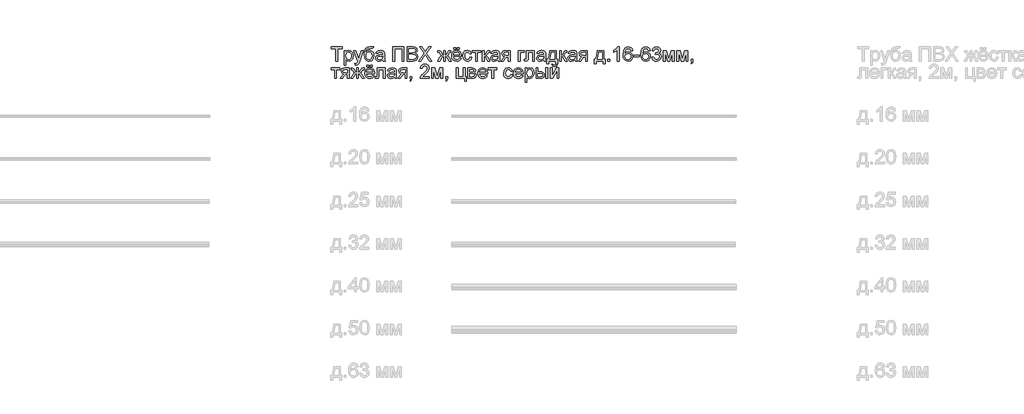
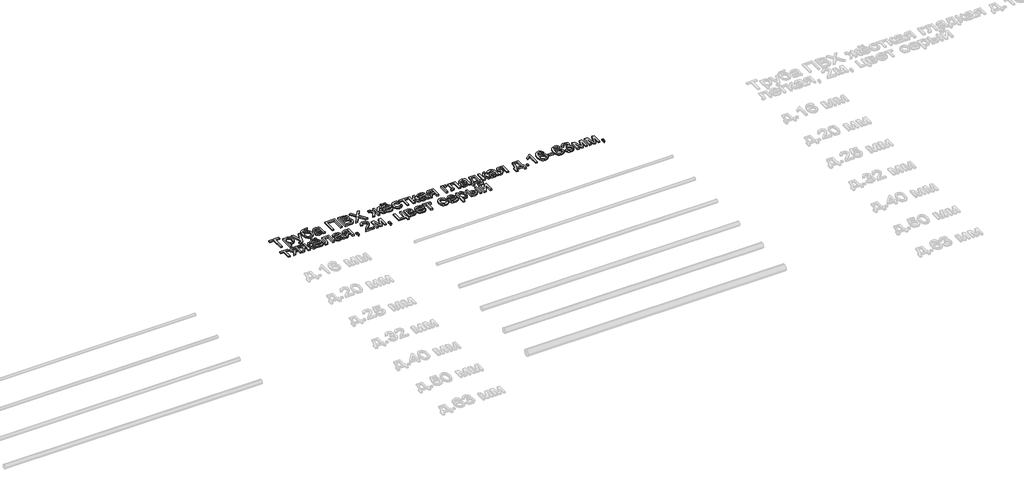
# One storey, part 96 of 98: 1 proxy.
"""IFC4 building model written with IfcOpenShell, lengths in millimetres."""

from ifc_helpers import new_model, si_unit, origin, origin_with_axes, place, context, project, spatial, polyline, outline, extrude, element, save

model = new_model("IFC4")

# Units and contexts
model_context = context("Model", 3, world=origin())
ifc_project = project(units=[si_unit("LENGTHUNIT", "METRE", prefix="MILLI")], contexts=[model_context])

# Site, building, storey
site = spatial("IfcSite", under=ifc_project)
building = spatial("IfcBuilding", under=site)
storey = spatial("IfcBuildingStorey", under=building, Name="Этаж 01", Elevation=0.0)

# Proxy
placement = place(None, origin())
element("IfcBuildingElementProxy", 1, Name="100", ObjectType="100", at=placement, inside=storey, context=model_context, shape_type="SweptSolid", body=[
    extrude(outline(polyline([(11088.710485, -3215.5625308), (11088.710485, -3127.6632594), (11055.7482582, -3127.6632594), (11055.7482582, -3115.1062206), (11134.2297505, -3115.1062206), (11134.2297505, -3127.6632594), (11101.2675238, -3127.6632594), (11101.2675238, -3215.5625308), (11088.710485, -3215.5625308)])), origin_with_axes(), (0.0, 0.0, 1.0), 10.0),
    extrude(outline(polyline([(11146.7867893, -3243.815868), (11146.7867893, -3141.789928), (11159.3438281, -3141.789928), (11159.3438281, -3154.1017121), (11168.0258432, -3143.6906516), (11179.7490161, -3140.2202982), (11195.6660437, -3145.0763405), (11206.0648415, -3158.7615507), (11209.5719831, -3178.1121437), (11205.6111203, -3198.456018), (11194.1086766, -3212.3129065), (11178.2284372, -3217.1321606), (11167.3023419, -3213.9070618), (11159.3438281, -3205.7523442), (11159.3438281, -3243.815868), (11146.7867893, -3243.815868)]), holes=[polyline([(11159.3438281, -3179.2648406), (11160.7019258, -3190.5220296), (11164.7762189, -3198.3947043), (11170.7880238, -3203.0300175), (11177.958657, -3204.5751218), (11185.2457862, -3202.9748352), (11191.4108753, -3198.1739751), (11195.6139271, -3190.0131262), (11197.0149444, -3178.3328729), (11195.6476496, -3167.1369975), (11191.5457654, -3159.1539582), (11185.5431575, -3154.3714922), (11178.4736918, -3152.7773369), (11171.376635, -3154.4726598), (11165.1441009, -3159.5586284), (11160.7938963, -3167.8758271), (11159.3438281, -3179.2648406)])]), origin_with_axes(), (0.0, 0.0, 1.0), 10.0),
    extrude(outline(polyline([(11223.6986518, -3243.815868), (11222.1290219, -3231.7248131), (11228.5056432, -3232.8284591), (11234.4653315, -3231.4427702), (11238.119626, -3227.5800093), (11241.5531913, -3218.3339085), (11242.5342099, -3215.2927506), (11215.8505025, -3141.789928), (11229.0942544, -3141.789928), (11243.2454484, -3182.7474568), (11248.1750672, -3199.1304683), (11253.1046859, -3184.6604432), (11267.6482874, -3141.789928), (11280.7939374, -3141.789928), (11255.1157741, -3217.3283643), (11248.4448473, -3233.7113759), (11241.1607838, -3242.5650692), (11231.3751227, -3245.3854978), (11223.6986518, -3243.815868)])), origin_with_axes(), (0.0, 0.0, 1.0), 10.0),
    extrude(outline(polyline([(11342.9905201, -3113.5365908), (11353.977929, -3113.5365908), (11350.7405674, -3123.3345146), (11344.3394207, -3126.8784445), (11328.9619533, -3127.6632594), (11308.250197, -3130.5572644), (11300.3039459, -3139.8278907), (11297.6184073, -3156.2354277), (11308.4954516, -3144.2179492), (11322.5117557, -3140.2202982), (11335.5776979, -3142.7617496), (11346.1788307, -3150.386104), (11353.2053768, -3162.3453345), (11355.5475588, -3177.8914145), (11350.899983, -3199.4983503), (11339.8757858, -3212.5336357), (11322.5117557, -3217.1321606), (11311.1779245, -3215.6514356), (11302.6829161, -3211.2092605), (11291.8303973, -3196.0525223), (11288.0534754, -3163.8873732), (11290.4355114, -3139.7941682), (11297.5816191, -3125.1003482), (11309.6696083, -3117.6047525), (11326.8772887, -3115.1062206), (11340.8568045, -3114.8241778), (11342.9905201, -3113.5365908)]), holes=[polyline([(11342.9905201, -3177.499007), (11341.6293567, -3167.6183097), (11337.5458665, -3159.7057812), (11330.9853043, -3154.509448), (11322.1929246, -3152.7773369), (11313.0265315, -3154.6075499), (11306.226846, -3160.0981886), (11302.0145972, -3168.6483793), (11300.6105142, -3179.657248), (11302.16175, -3190.3288916), (11306.8154572, -3198.1617124), (11313.7439014, -3202.9717695), (11322.1193482, -3204.5751218), (11330.5377145, -3202.7203835), (11337.20251, -3197.1561683), (11341.5435175, -3188.5324012), (11342.9905201, -3177.499007)])]), origin_with_axes(), (0.0, 0.0, 1.0), 10.0),
    extrude(outline(polyline([(11418.3327527, -3206.1447517), (11406.1558586, -3214.6550885), (11392.7036403, -3217.1321606), (11382.2098064, -3215.6422385), (11374.4689561, -3211.1724723), (11369.6956872, -3204.3850495), (11368.1045976, -3195.9421577), (11370.5080933, -3186.0093438), (11376.8234009, -3178.7988567), (11385.6157806, -3174.6785784), (11396.4805622, -3172.7901175), (11418.2591763, -3168.4736354), (11418.3327527, -3165.6777322), (11414.8746619, -3156.4071059), (11400.993248, -3152.7773369), (11388.2890564, -3155.1930954), (11382.2312662, -3163.7647458), (11369.6742274, -3162.195116), (11375.1066182, -3149.9323828), (11386.0449762, -3142.7464212), (11402.6119287, -3140.2202982), (11417.8299806, -3142.4521156), (11426.4261566, -3148.0561847), (11430.2766548, -3156.5787842), (11430.8897914, -3167.5661931), (11430.8897914, -3183.1889152), (11431.5274536, -3205.0043175), (11434.0290511, -3215.5625308), (11421.4720124, -3215.5625308), (11418.3327527, -3206.1447517)]), holes=[polyline([(11418.3327527, -3181.0306742), (11398.0747175, -3184.8811724), (11387.2712495, -3186.9167861), (11382.378419, -3190.227724), (11380.6616364, -3195.0592409), (11384.40177, -3201.8527951), (11395.3769162, -3204.5751218), (11408.0811077, -3201.5707522), (11416.2726135, -3194.2989514), (11418.2591763, -3184.5868668), (11418.3327527, -3181.0306742)])]), origin_with_axes(), (0.0, 0.0, 1.0), 10.0),
    extrude(outline(polyline([(11488.9660957, -3115.1062206), (11567.447588, -3115.1062206), (11567.447588, -3215.5625308), (11554.8905493, -3215.5625308), (11554.8905493, -3127.6632594), (11501.5231345, -3127.6632594), (11501.5231345, -3215.5625308), (11488.9660957, -3215.5625308), (11488.9660957, -3115.1062206)])), origin_with_axes(), (0.0, 0.0, 1.0), 10.0),
    extrude(outline(polyline([(11589.4224059, -3215.5625308), (11589.4224059, -3115.1062206), (11627.7557098, -3115.1062206), (11646.5299543, -3118.0615393), (11657.6154651, -3127.1482246), (11661.6253788, -3139.999569), (11658.2531272, -3151.7350046), (11648.0627959, -3160.6254862), (11660.4358937, -3169.9942143), (11664.7646385, -3185.6169364), (11661.8093198, -3199.1182056), (11654.4884681, -3208.7321884), (11643.5623728, -3213.8334854), (11627.4614042, -3215.5625308), (11589.4224059, -3215.5625308)]), holes=[polyline([(11601.9794447, -3155.9165966), (11624.9107557, -3155.9165966), (11638.3016603, -3154.8374761), (11646.358276, -3150.1899002), (11649.06834, -3142.0106572), (11646.542217, -3133.8191514), (11639.3072044, -3128.9753718), (11623.1694476, -3127.6632594), (11601.9794447, -3127.6632594), (11601.9794447, -3155.9165966)]), polyline([(11601.9794447, -3203.005492), (11627.7311843, -3203.005492), (11637.0508615, -3202.5149827), (11644.935799, -3199.7803932), (11650.1597233, -3194.2008496), (11652.2075997, -3185.7395637), (11649.804104, -3175.9784281), (11642.0172685, -3170.1536298), (11626.504911, -3168.4736354), (11601.9794447, -3168.4736354), (11601.9794447, -3203.005492)])]), origin_with_axes(), (0.0, 0.0, 1.0), 10.0),
    extrude(outline(polyline([(11671.0431579, -3215.5625308), (11709.7688692, -3160.8216899), (11677.3216773, -3115.1062206), (11692.3803136, -3115.1062206), (11710.651786, -3140.8334348), (11716.8076781, -3150.8643505), (11724.0181652, -3140.6617566), (11742.0934339, -3115.1062206), (11757.3727994, -3115.1062206), (11724.9256074, -3160.9688427), (11763.6513188, -3215.5625308), (11748.5926825, -3215.5625308), (11722.7918919, -3179.1667387), (11717.4208147, -3171.6128951), (11711.5101774, -3179.9025027), (11686.3225234, -3215.5625308), (11671.0431579, -3215.5625308)])), origin_with_axes(), (0.0, 0.0, 1.0), 10.0),
    extrude(outline(polyline([(11857.8291096, -3141.789928), (11857.8291096, -3173.1825249), (11865.1499613, -3170.5950882), (11872.0784055, -3157.1673954), (11880.3434877, -3144.2915256), (11892.0911861, -3141.789928), (11897.0698557, -3141.789928), (11897.0698557, -3154.4205432), (11893.611765, -3154.3469668), (11887.1370419, -3155.6468165), (11882.6488815, -3163.7892713), (11877.4372199, -3172.7165411), (11869.9937409, -3177.2537523), (11878.2036407, -3182.1404515), (11886.2050741, -3192.435016), (11900.2091154, -3215.5625308), (11885.8126667, -3215.5625308), (11872.0293546, -3192.7538471), (11865.0028085, -3183.2747543), (11857.8291096, -3181.0306742), (11857.8291096, -3215.5625308), (11845.2720708, -3215.5625308), (11845.2720708, -3181.0306742), (11838.1228974, -3183.2257034), (11831.0473003, -3192.7047961), (11817.2639882, -3215.5625308), (11802.892065, -3215.5625308), (11816.8470553, -3192.435016), (11824.9098024, -3182.1404515), (11833.1564904, -3177.2537523), (11825.2592903, -3172.2505572), (11818.4902616, -3159.3746874), (11815.1793236, -3155.1317817), (11809.7591955, -3154.2733904), (11806.0313247, -3154.3469668), (11806.0313247, -3141.789928), (11807.9197856, -3141.789928), (11818.93172, -3142.5747429), (11824.6461536, -3145.9102063), (11831.0473003, -3157.1673954), (11837.9021682, -3170.5092491), (11845.2720708, -3173.1825249), (11845.2720708, -3141.789928), (11857.8291096, -3141.789928)])), origin_with_axes(), (0.0, 0.0, 1.0), 10.0),
    extrude(outline(polyline([(11942.5891213, -3133.9417788), (11942.5891213, -3121.38474), (11955.14616, -3121.38474), (11955.14616, -3133.9417788), (11942.5891213, -3133.9417788)])), origin_with_axes(), (0.0, 0.0, 1.0), 10.0),
    extrude(outline(polyline([(11917.4750437, -3133.9417788), (11917.4750437, -3121.38474), (11930.0320825, -3121.38474), (11930.0320825, -3133.9417788), (11917.4750437, -3133.9417788)])), origin_with_axes(), (0.0, 0.0, 1.0), 10.0),
    extrude(outline(polyline([(11958.1382669, -3193.5877129), (11970.450051, -3195.1573428), (11966.0140073, -3204.4341004), (11958.9353446, -3211.368676), (11949.3734784, -3215.6912895), (11937.4878243, -3217.1321606), (11922.7541504, -3214.6458915), (11911.4172535, -3207.187084), (11904.1883723, -3195.2401162), (11901.7787453, -3179.289366), (11904.2128978, -3162.8021213), (11911.5153554, -3150.4719431), (11922.6989681, -3142.7832094), (11936.7765857, -3140.2202982), (11950.4158107, -3142.777078), (11961.3143148, -3150.4474176), (11968.4604226, -3162.7530704), (11970.8424585, -3179.2157896), (11970.7688821, -3182.600304), (11914.335784, -3182.600304), (11916.5093535, -3191.999689), (11921.5585339, -3198.9097391), (11928.8456631, -3203.1587762), (11937.7330789, -3204.5751218), (11950.044863, -3201.9508969), (11958.1382669, -3193.5877129)]), holes=[polyline([(11914.335784, -3170.0432652), (11958.2854197, -3170.0432652), (11953.2576991, -3158.6634488), (11945.9368474, -3154.2488649), (11936.7275348, -3152.7773369), (11921.2642283, -3157.4739637), (11916.3989889, -3162.9646025), (11914.335784, -3170.0432652)])]), origin_with_axes(), (0.0, 0.0, 1.0), 10.0),
    extrude(outline(polyline([(12030.4883926, -3188.8788234), (12043.0454314, -3190.4484532), (12039.5444211, -3201.6167375), (12032.9654647, -3210.0565636), (12023.9278304, -3215.3632614), (12013.0507861, -3217.1321606), (11999.693604, -3214.6642856), (11989.248821, -3207.2606604), (11982.5073834, -3195.2462476), (11980.2602376, -3178.9460095), (11984.0984731, -3158.0871004), (11995.7971205, -3144.683933), (12012.8791078, -3140.2202982), (12023.4894377, -3141.7531398), (12031.9721834, -3146.3516647), (12038.0575647, -3153.7706183), (12041.4758016, -3163.7647458), (12028.9187628, -3165.3343757), (12023.0939645, -3155.9288593), (12012.9772097, -3152.7773369), (12004.862346, -3154.3285727), (11998.4213454, -3158.9822799), (11994.2182936, -3166.9898447), (11992.8172763, -3178.602653), (11994.1876368, -3190.3718111), (11998.2987181, -3198.4069671), (12004.6232227, -3203.0330831), (12012.6338531, -3204.5751218), (12024.4673907, -3200.7246236), (12030.4883926, -3188.8788234)])), origin_with_axes(), (0.0, 0.0, 1.0), 10.0),
    extrude(outline(polyline([(12047.754321, -3141.789928), (12107.4002551, -3141.789928), (12107.4002551, -3154.3469668), (12083.8558074, -3154.3469668), (12083.8558074, -3215.5625308), (12071.2987686, -3215.5625308), (12071.2987686, -3154.3469668), (12047.754321, -3154.3469668), (12047.754321, -3141.789928)])), origin_with_axes(), (0.0, 0.0, 1.0), 10.0),
    extrude(outline(polyline([(12118.387664, -3141.789928), (12130.9447028, -3141.789928), (12130.9447028, -3173.1825249), (12139.3569377, -3170.926182), (12146.2485938, -3157.7805321), (12151.9752902, -3146.4375039), (12157.0275363, -3142.7464212), (12166.2123234, -3141.789928), (12168.6158191, -3141.789928), (12168.6158191, -3154.4205432), (12165.2313047, -3154.3469668), (12159.0999382, -3155.671342), (12154.7834561, -3163.9364241), (12149.7189473, -3172.8759566), (12142.6188248, -3177.2537523), (12150.5405504, -3182.1404515), (12158.3151232, -3192.435016), (12171.7550788, -3215.5625308), (12157.4812574, -3215.5625308), (12144.311082, -3192.9255253), (12137.689206, -3183.3483307), (12130.9447028, -3181.0306742), (12130.9447028, -3215.5625308), (12118.387664, -3215.5625308), (12118.387664, -3141.789928)])), origin_with_axes(), (0.0, 0.0, 1.0), 10.0),
    extrude(outline(polyline([(12226.6921234, -3206.1447517), (12214.5152294, -3214.6550885), (12201.0630111, -3217.1321606), (12190.5691772, -3215.6422385), (12182.8283268, -3211.1724723), (12178.055058, -3204.3850495), (12176.4639683, -3195.9421577), (12178.867464, -3186.0093438), (12185.1827716, -3178.7988567), (12193.9751513, -3174.6785784), (12204.8399329, -3172.7901175), (12226.618547, -3168.4736354), (12226.6921234, -3165.6777322), (12223.2340326, -3156.4071059), (12209.3526187, -3152.7773369), (12196.6484271, -3155.1930954), (12190.5906369, -3163.7647458), (12178.0335982, -3162.195116), (12183.465989, -3149.9323828), (12194.404347, -3142.7464212), (12210.9712995, -3140.2202982), (12226.1893513, -3142.4521156), (12234.7855273, -3148.0561847), (12238.6360255, -3156.5787842), (12239.2491622, -3167.5661931), (12239.2491622, -3183.1889152), (12239.8868243, -3205.0043175), (12242.3884219, -3215.5625308), (12229.8313831, -3215.5625308), (12226.6921234, -3206.1447517)]), holes=[polyline([(12226.6921234, -3181.0306742), (12206.4340882, -3184.8811724), (12195.6306203, -3186.9167861), (12190.7377897, -3190.227724), (12189.0210071, -3195.0592409), (12192.7611407, -3201.8527951), (12203.7362869, -3204.5751218), (12216.4404785, -3201.5707522), (12224.6319842, -3194.2989514), (12226.618547, -3184.5868668), (12226.6921234, -3181.0306742)])]), origin_with_axes(), (0.0, 0.0, 1.0), 10.0),
    extrude(outline(polyline([(12313.0217649, -3141.789928), (12313.0217649, -3215.5625308), (12300.4647262, -3215.5625308), (12300.4647262, -3187.3091935), (12293.6221211, -3187.3091935), (12284.3024438, -3188.9033489), (12275.5468524, -3199.6209776), (12265.5404621, -3215.5625308), (12251.021386, -3215.5625308), (12263.6274757, -3195.4025974), (12274.320579, -3184.9547488), (12265.7366658, -3182.3243925), (12259.7034011, -3177.3273287), (12254.9454606, -3163.1025583), (12256.5702728, -3154.5063823), (12261.4447092, -3147.7005654), (12269.3970917, -3143.2675873), (12280.2557419, -3141.789928), (12313.0217649, -3141.789928)]), holes=[polyline([(12300.4647262, -3154.3469668), (12283.9100364, -3154.3469668), (12270.506869, -3157.2532345), (12267.5024994, -3164.0590514), (12271.9293461, -3172.1647181), (12287.6133818, -3174.7521548), (12300.4647262, -3174.7521548), (12300.4647262, -3154.3469668)])]), origin_with_axes(), (0.0, 0.0, 1.0), 10.0),
    extrude(outline(polyline([(12371.0980692, -3141.789928), (12411.9084452, -3141.789928), (12411.9084452, -3154.3469668), (12383.655108, -3154.3469668), (12383.655108, -3215.5625308), (12371.0980692, -3215.5625308), (12371.0980692, -3141.789928)])), origin_with_axes(), (0.0, 0.0, 1.0), 10.0),
    extrude(outline(polyline([(12427.6047437, -3141.789928), (12484.1114182, -3141.789928), (12484.1114182, -3215.4889544), (12471.5543794, -3215.4889544), (12471.5543794, -3154.3469668), (12440.1617825, -3154.3469668), (12440.1617825, -3189.541011), (12439.3156539, -3205.7768697), (12434.668078, -3212.6317375), (12423.6806691, -3215.5625308), (12413.4780751, -3214.9248686), (12413.4780751, -3203.005492), (12419.0944069, -3203.005492), (12424.7720523, -3202.2329398), (12427.040658, -3199.7803932), (12427.6047437, -3188.8297725), (12427.6047437, -3141.789928)])), origin_with_axes(), (0.0, 0.0, 1.0), 10.0),
    extrude(outline(polyline([(12550.0358717, -3206.1447517), (12537.8589777, -3214.6550885), (12524.4067594, -3217.1321606), (12513.9129255, -3215.6422385), (12506.1720751, -3211.1724723), (12501.3988063, -3204.3850495), (12499.8077166, -3195.9421577), (12502.2112123, -3186.0093438), (12508.5265199, -3178.7988567), (12517.3188996, -3174.6785784), (12528.1836812, -3172.7901175), (12549.9622953, -3168.4736354), (12550.0358717, -3165.6777322), (12546.5777809, -3156.4071059), (12532.696367, -3152.7773369), (12519.9921754, -3155.1930954), (12513.9343852, -3163.7647458), (12501.3773465, -3162.195116), (12506.8097373, -3149.9323828), (12517.7480953, -3142.7464212), (12534.3150478, -3140.2202982), (12549.5330996, -3142.4521156), (12558.1292756, -3148.0561847), (12561.9797738, -3156.5787842), (12562.5929105, -3167.5661931), (12562.5929105, -3183.1889152), (12563.2305726, -3205.0043175), (12565.7321702, -3215.5625308), (12553.1751314, -3215.5625308), (12550.0358717, -3206.1447517)]), holes=[polyline([(12550.0358717, -3181.0306742), (12529.7778365, -3184.8811724), (12518.9743686, -3186.9167861), (12514.081538, -3190.227724), (12512.3647554, -3195.0592409), (12516.104889, -3201.8527951), (12527.0800352, -3204.5751218), (12539.7842268, -3201.5707522), (12547.9757325, -3194.2989514), (12549.9622953, -3184.5868668), (12550.0358717, -3181.0306742)])]), origin_with_axes(), (0.0, 0.0, 1.0), 10.0),
    extrude(outline(polyline([(12590.8462477, -3141.789928), (12637.9351431, -3141.789928), (12637.9351431, -3203.005492), (12647.3529222, -3203.005492), (12647.3529222, -3235.9677188), (12634.7958834, -3235.9677188), (12634.7958834, -3215.5625308), (12582.9980985, -3215.5625308), (12582.9980985, -3235.9677188), (12570.4410597, -3235.9677188), (12570.4410597, -3203.005492), (12578.2892089, -3203.005492), (12587.9890309, -3179.0563741), (12590.8462477, -3141.789928)]), holes=[polyline([(12601.8336566, -3154.3469668), (12598.8906007, -3182.9559233), (12592.4158775, -3203.005492), (12625.3781043, -3203.005492), (12625.3781043, -3154.3469668), (12601.8336566, -3154.3469668)])]), origin_with_axes(), (0.0, 0.0, 1.0), 10.0),
    extrude(outline(polyline([(12661.4795908, -3141.789928), (12674.0366295, -3141.789928), (12674.0366295, -3173.1825249), (12682.4488645, -3170.926182), (12689.3405205, -3157.7805321), (12695.0672169, -3146.4375039), (12700.119463, -3142.7464212), (12709.3042501, -3141.789928), (12711.7077458, -3141.789928), (12711.7077458, -3154.4205432), (12708.3232315, -3154.3469668), (12702.1918649, -3155.671342), (12697.8753828, -3163.9364241), (12692.810874, -3172.8759566), (12685.7107515, -3177.2537523), (12693.6324771, -3182.1404515), (12701.40705, -3192.435016), (12714.8470055, -3215.5625308), (12700.5731841, -3215.5625308), (12687.4030087, -3192.9255253), (12680.7811328, -3183.3483307), (12674.0366295, -3181.0306742), (12674.0366295, -3215.5625308), (12661.4795908, -3215.5625308), (12661.4795908, -3141.789928)])), origin_with_axes(), (0.0, 0.0, 1.0), 10.0),
    extrude(outline(polyline([(12769.7840502, -3206.1447517), (12757.6071561, -3214.6550885), (12744.1549378, -3217.1321606), (12733.6611039, -3215.6422385), (12725.9202536, -3211.1724723), (12721.1469847, -3204.3850495), (12719.5558951, -3195.9421577), (12721.9593908, -3186.0093438), (12728.2746984, -3178.7988567), (12737.067078, -3174.6785784), (12747.9318596, -3172.7901175), (12769.7104738, -3168.4736354), (12769.7840502, -3165.6777322), (12766.3259594, -3156.4071059), (12752.4445454, -3152.7773369), (12739.7403539, -3155.1930954), (12733.6825637, -3163.7647458), (12721.1255249, -3162.195116), (12726.5579157, -3149.9323828), (12737.4962737, -3142.7464212), (12754.0632262, -3140.2202982), (12769.2812781, -3142.4521156), (12777.877454, -3148.0561847), (12781.7279523, -3156.5787842), (12782.3410889, -3167.5661931), (12782.3410889, -3183.1889152), (12782.978751, -3205.0043175), (12785.4803486, -3215.5625308), (12772.9233098, -3215.5625308), (12769.7840502, -3206.1447517)]), holes=[polyline([(12769.7840502, -3181.0306742), (12749.5260149, -3184.8811724), (12738.722547, -3186.9167861), (12733.8297165, -3190.227724), (12732.1129338, -3195.0592409), (12735.8530675, -3201.8527951), (12746.8282137, -3204.5751218), (12759.5324052, -3201.5707522), (12767.723911, -3194.2989514), (12769.7104738, -3184.5868668), (12769.7840502, -3181.0306742)])]), origin_with_axes(), (0.0, 0.0, 1.0), 10.0),
    extrude(outline(polyline([(12856.1136917, -3141.789928), (12856.1136917, -3215.5625308), (12843.5566529, -3215.5625308), (12843.5566529, -3187.3091935), (12836.7140478, -3187.3091935), (12827.3943706, -3188.9033489), (12818.6387791, -3199.6209776), (12808.6323888, -3215.5625308), (12794.1133128, -3215.5625308), (12806.7194025, -3195.4025974), (12817.4125058, -3184.9547488), (12808.8285926, -3182.3243925), (12802.7953279, -3177.3273287), (12798.0373874, -3163.1025583), (12799.6621995, -3154.5063823), (12804.536636, -3147.7005654), (12812.4890184, -3143.2675873), (12823.3476686, -3141.789928), (12856.1136917, -3141.789928)]), holes=[polyline([(12843.5566529, -3154.3469668), (12827.0019631, -3154.3469668), (12813.5987958, -3157.2532345), (12810.5944261, -3164.0590514), (12815.0212728, -3172.1647181), (12830.7053086, -3174.7521548), (12843.5566529, -3174.7521548), (12843.5566529, -3154.3469668)])]), origin_with_axes(), (0.0, 0.0, 1.0), 10.0),
    extrude(outline(polyline([(12925.1774049, -3141.789928), (12972.2663003, -3141.789928), (12972.2663003, -3203.005492), (12981.6840794, -3203.005492), (12981.6840794, -3235.9677188), (12969.1270406, -3235.9677188), (12969.1270406, -3215.5625308), (12917.3292557, -3215.5625308), (12917.3292557, -3235.9677188), (12904.7722169, -3235.9677188), (12904.7722169, -3203.005492), (12912.6203661, -3203.005492), (12922.3201881, -3179.0563741), (12925.1774049, -3141.789928)]), holes=[polyline([(12936.1648138, -3154.3469668), (12933.2217579, -3182.9559233), (12926.7470348, -3203.005492), (12959.7092615, -3203.005492), (12959.7092615, -3154.3469668), (12936.1648138, -3154.3469668)])]), origin_with_axes(), (0.0, 0.0, 1.0), 10.0),
    extrude(outline(polyline([(12998.9500077, -3215.5625308), (12998.9500077, -3203.005492), (13011.5070464, -3203.005492), (13011.5070464, -3215.5625308), (12998.9500077, -3215.5625308)])), origin_with_axes(), (0.0, 0.0, 1.0), 10.0),
    extrude(outline(polyline([(13079.0011298, -3215.5625308), (13066.4440911, -3215.5625308), (13066.4440911, -3137.2772422), (13054.5492399, -3145.7507908), (13041.3300135, -3152.0906239), (13041.3300135, -3140.2202982), (13059.736376, -3128.4725998), (13070.9077259, -3115.1062206), (13079.0011298, -3115.1062206), (13079.0011298, -3215.5625308)])), origin_with_axes(), (0.0, 0.0, 1.0), 10.0),
    extrude(outline(polyline([(13173.1789206, -3141.789928), (13160.6218818, -3143.3595578), (13155.8639414, -3132.8871837), (13143.2823771, -3127.6632594), (13131.9516117, -3130.7044172), (13123.3799612, -3142.1210218), (13119.8115058, -3164.5005098), (13130.8847539, -3154.4818568), (13144.6067523, -3151.2077071), (13156.2072979, -3153.4456559), (13165.943908, -3160.1595023), (13172.5473898, -3170.4172786), (13174.7485504, -3183.2870171), (13170.6037466, -3200.614259), (13159.1994048, -3212.8769922), (13142.7428169, -3217.1321606), (13128.4965866, -3214.311732), (13117.1504927, -3205.8504461), (13109.7284735, -3190.9144371), (13107.2544671, -3168.6698391), (13110.0013193, -3143.6599948), (13118.241876, -3126.5596134), (13129.4929337, -3117.9695688), (13144.067192, -3115.1062206), (13155.0852578, -3116.8781856), (13163.9082943, -3122.1940804), (13170.0887118, -3130.6369722), (13173.1789206, -3141.789928)]), holes=[polyline([(13119.8115058, -3183.0908133), (13122.7177736, -3193.9678577), (13130.4432955, -3201.8650578), (13141.7617982, -3204.5751218), (13150.0483401, -3203.1710389), (13156.5629171, -3198.9587901), (13160.784363, -3192.3369141), (13162.1915117, -3183.70395), (13160.8027571, -3175.417408), (13156.6364935, -3169.0990348), (13150.0115519, -3165.0983181), (13141.2467634, -3163.7647458), (13126.053237, -3169.0990348), (13121.3719386, -3175.2641239), (13119.8115058, -3183.0908133)])]), origin_with_axes(), (0.0, 0.0, 1.0), 10.0),
    extrude(outline(polyline([(13182.5966997, -3185.7395637), (13182.5966997, -3173.1825249), (13221.8374458, -3173.1825249), (13221.8374458, -3185.7395637), (13182.5966997, -3185.7395637)])), origin_with_axes(), (0.0, 0.0, 1.0), 10.0),
    extrude(outline(polyline([(13297.1796784, -3141.789928), (13284.6226397, -3143.3595578), (13279.8646992, -3132.8871837), (13267.283135, -3127.6632594), (13255.9523695, -3130.7044172), (13247.380719, -3142.1210218), (13243.8122637, -3164.5005098), (13254.8855117, -3154.4818568), (13268.6075101, -3151.2077071), (13280.2080557, -3153.4456559), (13289.9446659, -3160.1595023), (13296.5481477, -3170.4172786), (13298.7493083, -3183.2870171), (13294.6045045, -3200.614259), (13283.2001626, -3212.8769922), (13266.7435747, -3217.1321606), (13252.4973444, -3214.311732), (13241.1512506, -3205.8504461), (13233.7292313, -3190.9144371), (13231.2552249, -3168.6698391), (13234.0020771, -3143.6599948), (13242.2426338, -3126.5596134), (13253.4936915, -3117.9695688), (13268.0679499, -3115.1062206), (13279.0860156, -3116.8781856), (13287.9090522, -3122.1940804), (13294.0894697, -3130.6369722), (13297.1796784, -3141.789928)]), holes=[polyline([(13243.8122637, -3183.0908133), (13246.7185314, -3193.9678577), (13254.4440533, -3201.8650578), (13265.762556, -3204.5751218), (13274.049098, -3203.1710389), (13280.563675, -3198.9587901), (13284.7851209, -3192.3369141), (13286.1922695, -3183.70395), (13284.803515, -3175.417408), (13280.6372514, -3169.0990348), (13274.0123098, -3165.0983181), (13265.2475213, -3163.7647458), (13250.0539949, -3169.0990348), (13245.3726965, -3175.2641239), (13243.8122637, -3183.0908133)])]), origin_with_axes(), (0.0, 0.0, 1.0), 10.0),
    extrude(outline(polyline([(13309.7367172, -3188.8788234), (13322.293756, -3187.3091935), (13329.2222002, -3200.5284199), (13342.1839092, -3204.5751218), (13350.7923479, -3203.1833016), (13357.4387492, -3199.007841), (13363.104132, -3185.2245289), (13357.4878002, -3172.2382945), (13343.2139788, -3167.1002093), (13334.4093363, -3168.4736354), (13335.8072879, -3155.9165966), (13337.8183762, -3156.0637494), (13352.0676721, -3152.4585059), (13356.8133499, -3147.8845064), (13358.3952424, -3141.3729951), (13353.8089802, -3131.5505458), (13341.9877054, -3127.6632594), (13330.0192779, -3131.587334), (13323.8633858, -3143.3595578), (13311.3063471, -3141.789928), (13315.0035611, -3130.5143448), (13321.5825174, -3122.0959785), (13330.5833636, -3116.8536601), (13341.5462471, -3115.1062206), (13356.6907225, -3118.5520486), (13367.285724, -3127.9698277), (13370.9522812, -3140.6372311), (13367.469665, -3152.2132512), (13357.1689691, -3160.5273843), (13370.8541793, -3169.1112975), (13375.6611707, -3185.4452581), (13373.257675, -3197.6834658), (13366.0471879, -3207.9105853), (13355.1640122, -3214.8267668), (13341.7424508, -3217.1321606), (13329.6023449, -3215.1639919), (13319.718582, -3209.2594859), (13312.8453201, -3200.2279829), (13309.7367172, -3188.8788234)])), origin_with_axes(), (0.0, 0.0, 1.0), 10.0),
    extrude(outline(polyline([(13389.7878394, -3141.789928), (13411.3947752, -3141.789928), (13428.0475669, -3200.847251), (13446.0002082, -3141.789928), (13466.6997018, -3141.789928), (13466.6997018, -3215.5625308), (13454.142663, -3215.5625308), (13454.142663, -3156.1618513), (13436.0919198, -3215.5625308), (13419.6108064, -3215.5625308), (13402.3448781, -3153.3168972), (13402.3448781, -3215.5625308), (13389.7878394, -3215.5625308), (13389.7878394, -3141.789928)])), origin_with_axes(), (0.0, 0.0, 1.0), 10.0),
    extrude(outline(polyline([(13485.53526, -3141.789928), (13507.1421958, -3141.789928), (13523.7949875, -3200.847251), (13541.7476288, -3141.789928), (13562.4471224, -3141.789928), (13562.4471224, -3215.5625308), (13549.8900837, -3215.5625308), (13549.8900837, -3156.1618513), (13531.8393404, -3215.5625308), (13515.358227, -3215.5625308), (13498.0922987, -3153.3168972), (13498.0922987, -3215.5625308), (13485.53526, -3215.5625308), (13485.53526, -3141.789928)])), origin_with_axes(), (0.0, 0.0, 1.0), 10.0),
    extrude(outline(polyline([(13584.4219403, -3215.5625308), (13584.4219403, -3203.005492), (13596.978979, -3203.005492), (13596.978979, -3215.5625308), (13594.7226361, -3228.4016124), (13587.5612, -3235.9677188), (13584.4219403, -3231.2588292), (13589.0327279, -3225.8387012), (13590.6759342, -3215.5625308), (13584.4219403, -3215.5625308)])), origin_with_axes(), (0.0, 0.0, 1.0), 10.0),
    extrude(outline(polyline([(11055.7482582, -3263.7647458), (11115.3941924, -3263.7647458), (11115.3941924, -3276.3217846), (11091.8497447, -3276.3217846), (11091.8497447, -3337.5373486), (11079.2927059, -3337.5373486), (11079.2927059, -3276.3217846), (11055.7482582, -3276.3217846), (11055.7482582, -3263.7647458)])), origin_with_axes(), (0.0, 0.0, 1.0), 10.0),
    extrude(outline(polyline([(11182.8882758, -3263.7647458), (11182.8882758, -3337.5373486), (11170.331237, -3337.5373486), (11170.331237, -3309.2840114), (11163.4886319, -3309.2840114), (11154.1689547, -3310.8781667), (11145.4133632, -3321.5957955), (11135.4069729, -3337.5373486), (11120.8878968, -3337.5373486), (11133.4939865, -3317.3774153), (11144.1870899, -3306.9295666), (11135.6031766, -3304.2992103), (11129.5699119, -3299.3021466), (11124.8119715, -3285.0773761), (11126.4367836, -3276.4812001), (11131.31122, -3269.6753832), (11139.2636025, -3265.2424052), (11150.1222527, -3263.7647458), (11182.8882758, -3263.7647458)]), holes=[polyline([(11170.331237, -3276.3217846), (11153.7765472, -3276.3217846), (11140.3733798, -3279.2280524), (11137.3690102, -3286.0338693), (11141.7958569, -3294.1395359), (11157.4798926, -3296.7269726), (11170.331237, -3296.7269726), (11170.331237, -3276.3217846)])]), origin_with_axes(), (0.0, 0.0, 1.0), 10.0),
    extrude(outline(polyline([(11247.2430994, -3263.7647458), (11247.2430994, -3295.1573428), (11254.5639511, -3292.5699061), (11261.4923954, -3279.1422132), (11269.7574776, -3266.2663434), (11281.5051759, -3263.7647458), (11286.4838456, -3263.7647458), (11286.4838456, -3276.395361), (11283.0257548, -3276.3217846), (11276.5510317, -3277.6216343), (11272.0628714, -3285.7640892), (11266.8512098, -3294.6913589), (11259.4077308, -3299.2285702), (11267.6176306, -3304.1152694), (11275.619064, -3314.4098338), (11289.6231053, -3337.5373486), (11275.2266565, -3337.5373486), (11261.4433445, -3314.7286649), (11254.4167984, -3305.2495722), (11247.2430994, -3303.005492), (11247.2430994, -3337.5373486), (11234.6860607, -3337.5373486), (11234.6860607, -3303.005492), (11227.5368872, -3305.2005212), (11220.4612902, -3314.679614), (11206.6779781, -3337.5373486), (11192.3060548, -3337.5373486), (11206.2610452, -3314.4098338), (11214.3237922, -3304.1152694), (11222.5704803, -3299.2285702), (11214.6732801, -3294.225375), (11207.9042514, -3281.3495052), (11204.5933135, -3277.1065995), (11199.1731854, -3276.2482082), (11195.4453145, -3276.3217846), (11195.4453145, -3263.7647458), (11197.3337754, -3263.7647458), (11208.3457098, -3264.5495608), (11214.0601435, -3267.8850242), (11220.4612902, -3279.1422132), (11227.316158, -3292.4840669), (11234.6860607, -3295.1573428), (11234.6860607, -3263.7647458), (11247.2430994, -3263.7647458)])), origin_with_axes(), (0.0, 0.0, 1.0), 10.0),
    extrude(outline(polyline([(11332.0031111, -3255.9165966), (11332.0031111, -3243.3595578), (11344.5601499, -3243.3595578), (11344.5601499, -3255.9165966), (11332.0031111, -3255.9165966)])), origin_with_axes(), (0.0, 0.0, 1.0), 10.0),
    extrude(outline(polyline([(11306.8890336, -3255.9165966), (11306.8890336, -3243.3595578), (11319.4460724, -3243.3595578), (11319.4460724, -3255.9165966), (11306.8890336, -3255.9165966)])), origin_with_axes(), (0.0, 0.0, 1.0), 10.0),
    extrude(outline(polyline([(11347.5522568, -3315.5625308), (11359.8640409, -3317.1321606), (11355.4279972, -3326.4089183), (11348.3493345, -3333.3434939), (11338.7874683, -3337.6661073), (11326.9018141, -3339.1069785), (11312.1681402, -3336.6207093), (11300.8312434, -3329.1619019), (11293.6023622, -3317.2149341), (11291.1927351, -3301.2641839), (11293.6268877, -3284.7769391), (11300.9293453, -3272.4467609), (11312.1129579, -3264.7580272), (11326.1905756, -3262.195116), (11339.8298006, -3264.7518959), (11350.7283047, -3272.4222355), (11357.8744124, -3284.7278882), (11360.2564484, -3301.1906075), (11360.182872, -3304.5751218), (11303.7497739, -3304.5751218), (11305.9233434, -3313.9745068), (11310.9725237, -3320.884557), (11318.2596529, -3325.133594), (11327.1470688, -3326.5499397), (11339.4588529, -3323.9257148), (11347.5522568, -3315.5625308)]), holes=[polyline([(11303.7497739, -3292.0180831), (11347.6994096, -3292.0180831), (11342.671689, -3280.6382667), (11335.3508373, -3276.2236828), (11326.1415247, -3274.7521548), (11310.6782181, -3279.4487816), (11305.8129788, -3284.9394204), (11303.7497739, -3292.0180831)])]), origin_with_axes(), (0.0, 0.0, 1.0), 10.0),
    extrude(outline(polyline([(11379.0920065, -3263.7647458), (11435.598681, -3263.7647458), (11435.598681, -3337.4637722), (11423.0416422, -3337.4637722), (11423.0416422, -3276.3217846), (11391.6490453, -3276.3217846), (11391.6490453, -3311.5158288), (11390.8029167, -3327.7516875), (11386.1553408, -3334.6065554), (11375.1679319, -3337.5373486), (11364.9653379, -3336.8996865), (11364.9653379, -3324.9803098), (11370.5816697, -3324.9803098), (11376.2593152, -3324.2077577), (11378.5279208, -3321.755211), (11379.0920065, -3310.8045903), (11379.0920065, -3263.7647458)])), origin_with_axes(), (0.0, 0.0, 1.0), 10.0),
    extrude(outline(polyline([(11501.5231345, -3328.1195695), (11489.3462405, -3336.6299064), (11475.8940222, -3339.1069785), (11465.4001883, -3337.6170564), (11457.659338, -3333.1472901), (11452.8860691, -3326.3598673), (11451.2949794, -3317.9169755), (11453.6984751, -3307.9841617), (11460.0137827, -3300.7736746), (11468.8061624, -3296.6533962), (11479.670944, -3294.7649353), (11501.4495581, -3290.4484532), (11501.5231345, -3287.6525501), (11498.0650438, -3278.3819238), (11484.1836298, -3274.7521548), (11471.4794382, -3277.1679132), (11465.4216481, -3285.7395637), (11452.8646093, -3284.1699338), (11458.2970001, -3271.9072007), (11469.2353581, -3264.721239), (11485.8023106, -3262.195116), (11501.0203625, -3264.4269334), (11509.6165384, -3270.0310025), (11513.4670366, -3278.5536021), (11514.0801733, -3289.541011), (11514.0801733, -3305.163733), (11514.7178354, -3326.9791354), (11517.219433, -3337.5373486), (11504.6623942, -3337.5373486), (11501.5231345, -3328.1195695)]), holes=[polyline([(11501.5231345, -3303.005492), (11481.2650993, -3306.8559902), (11470.4616314, -3308.8916039), (11465.5688008, -3312.2025419), (11463.8520182, -3317.0340587), (11467.5921518, -3323.8276129), (11478.567298, -3326.5499397), (11491.2714896, -3323.5455701), (11499.4629953, -3316.2737693), (11501.4495581, -3306.5616846), (11501.5231345, -3303.005492)])]), origin_with_axes(), (0.0, 0.0, 1.0), 10.0),
    extrude(outline(polyline([(11587.852776, -3263.7647458), (11587.852776, -3337.5373486), (11575.2957373, -3337.5373486), (11575.2957373, -3309.2840114), (11568.4531322, -3309.2840114), (11559.133455, -3310.8781667), (11550.3778635, -3321.5957955), (11540.3714732, -3337.5373486), (11525.8523971, -3337.5373486), (11538.4584868, -3317.3774153), (11549.1515902, -3306.9295666), (11540.5676769, -3304.2992103), (11534.5344122, -3299.3021466), (11529.7764717, -3285.0773761), (11531.4012839, -3276.4812001), (11536.2757203, -3269.6753832), (11544.2281028, -3265.2424052), (11555.086753, -3263.7647458), (11587.852776, -3263.7647458)]), holes=[polyline([(11575.2957373, -3276.3217846), (11558.7410475, -3276.3217846), (11545.3378801, -3279.2280524), (11542.3335105, -3286.0338693), (11546.7603572, -3294.1395359), (11562.4443929, -3296.7269726), (11575.2957373, -3296.7269726), (11575.2957373, -3276.3217846)])]), origin_with_axes(), (0.0, 0.0, 1.0), 10.0),
    extrude(outline(polyline([(11609.8275939, -3337.5373486), (11609.8275939, -3324.9803098), (11622.3846327, -3324.9803098), (11622.3846327, -3337.5373486), (11620.1282898, -3350.3764302), (11612.9668536, -3357.9425366), (11609.8275939, -3353.2336471), (11614.4383816, -3347.813519), (11616.0815878, -3337.5373486), (11609.8275939, -3337.5373486)])), origin_with_axes(), (0.0, 0.0, 1.0), 10.0),
    extrude(outline(polyline([(11746.3853905, -3324.9803098), (11746.3853905, -3337.5373486), (11680.460937, -3337.5373486), (11681.8098376, -3328.879859), (11689.4372576, -3315.550268), (11705.1580816, -3300.9944038), (11726.8385938, -3280.074181), (11732.2587219, -3265.8494105), (11727.1451622, -3254.334704), (11713.7910457, -3249.6380772), (11699.8728436, -3254.2243394), (11694.5876056, -3266.9040055), (11682.0305668, -3265.3343757), (11685.0747903, -3253.1881385), (11691.6568124, -3244.316051), (11701.4332764, -3238.8897916), (11714.0608259, -3237.0810385), (11726.7803458, -3239.0921267), (11736.5384158, -3245.1253914), (11742.7464244, -3254.1385003), (11744.8157607, -3265.089121), (11742.5839432, -3276.9962349), (11735.1649896, -3289.308019), (11717.1755601, -3306.5126337), (11702.7300604, -3318.5914259), (11697.0646777, -3324.9803098), (11746.3853905, -3324.9803098)])), origin_with_axes(), (0.0, 0.0, 1.0), 10.0),
    extrude(outline(polyline([(11762.081689, -3263.7647458), (11783.6886248, -3263.7647458), (11800.3414165, -3322.8220688), (11818.2940578, -3263.7647458), (11838.9935514, -3263.7647458), (11838.9935514, -3337.5373486), (11826.4365127, -3337.5373486), (11826.4365127, -3278.1366691), (11808.3857694, -3337.5373486), (11791.904656, -3337.5373486), (11774.6387277, -3275.291715), (11774.6387277, -3337.5373486), (11762.081689, -3337.5373486), (11762.081689, -3263.7647458)])), origin_with_axes(), (0.0, 0.0, 1.0), 10.0),
    extrude(outline(polyline([(11860.9683693, -3337.5373486), (11860.9683693, -3324.9803098), (11873.525408, -3324.9803098), (11873.525408, -3337.5373486), (11871.2690651, -3350.3764302), (11864.107629, -3357.9425366), (11860.9683693, -3353.2336471), (11865.5791569, -3347.813519), (11867.2223632, -3337.5373486), (11860.9683693, -3337.5373486)])), origin_with_axes(), (0.0, 0.0, 1.0), 10.0),
    extrude(outline(polyline([(11936.3106019, -3263.7647458), (11948.8676406, -3263.7647458), (11948.8676406, -3324.9803098), (11984.9691271, -3324.9803098), (11984.9691271, -3263.7647458), (11997.5261659, -3263.7647458), (11997.5261659, -3324.9803098), (12005.3743151, -3324.9803098), (12005.3743151, -3357.9425366), (11992.8172763, -3357.9425366), (11992.8172763, -3337.5373486), (11936.3106019, -3337.5373486), (11936.3106019, -3263.7647458)])), origin_with_axes(), (0.0, 0.0, 1.0), 10.0),
    extrude(outline(polyline([(12016.361724, -3263.7647458), (12044.0264501, -3263.7647458), (12059.195451, -3265.4447403), (12067.7303133, -3271.6006323), (12071.2987686, -3282.3305239), (12069.1405276, -3291.0493272), (12062.641279, -3297.2665329), (12071.0780394, -3304.0723498), (12074.4380283, -3315.9058873), (12072.3104441, -3325.4769505), (12067.2520667, -3332.2153224), (12059.2445019, -3336.2068421), (12048.2693557, -3337.5373486), (12016.361724, -3337.5373486), (12016.361724, -3263.7647458)]), holes=[polyline([(12028.9187628, -3292.0180831), (12041.3286488, -3292.0180831), (12051.568031, -3291.380421), (12056.5467006, -3288.8297725), (12058.7417299, -3284.2189848), (12054.8912317, -3278.0630927), (12041.7210562, -3276.3217846), (12028.9187628, -3276.3217846), (12028.9187628, -3292.0180831)]), polyline([(12028.9187628, -3324.9803098), (12044.3207557, -3324.9803098), (12057.9814404, -3322.7117042), (12061.8809896, -3314.8758177), (12059.7350113, -3308.8302903), (12054.1432049, -3305.3108858), (12043.0944823, -3304.5751218), (12028.9187628, -3304.5751218), (12028.9187628, -3324.9803098)])]), origin_with_axes(), (0.0, 0.0, 1.0), 10.0),
    extrude(outline(polyline([(12141.7849589, -3315.5625308), (12154.096743, -3317.1321606), (12149.6606993, -3326.4089183), (12142.5820366, -3333.3434939), (12133.0201704, -3337.6661073), (12121.1345163, -3339.1069785), (12106.4008423, -3336.6207093), (12095.0639455, -3329.1619019), (12087.8350643, -3317.2149341), (12085.4254373, -3301.2641839), (12087.8595898, -3284.7769391), (12095.1620474, -3272.4467609), (12106.34566, -3264.7580272), (12120.4232777, -3262.195116), (12134.0625027, -3264.7518959), (12144.9610068, -3272.4222355), (12152.1071146, -3284.7278882), (12154.4891505, -3301.1906075), (12154.4155741, -3304.5751218), (12097.982476, -3304.5751218), (12100.1560455, -3313.9745068), (12105.2052259, -3320.884557), (12112.4923551, -3325.133594), (12121.3797709, -3326.5499397), (12133.691555, -3323.9257148), (12141.7849589, -3315.5625308)]), holes=[polyline([(12097.982476, -3292.0180831), (12141.9321117, -3292.0180831), (12136.9043911, -3280.6382667), (12129.5835394, -3276.2236828), (12120.3742268, -3274.7521548), (12104.9109203, -3279.4487816), (12100.0456809, -3284.9394204), (12097.982476, -3292.0180831)])]), origin_with_axes(), (0.0, 0.0, 1.0), 10.0),
    extrude(outline(polyline([(12160.7676699, -3263.7647458), (12220.413604, -3263.7647458), (12220.413604, -3276.3217846), (12196.8691563, -3276.3217846), (12196.8691563, -3337.5373486), (12184.3121176, -3337.5373486), (12184.3121176, -3276.3217846), (12160.7676699, -3276.3217846), (12160.7676699, -3263.7647458)])), origin_with_axes(), (0.0, 0.0, 1.0), 10.0),
    extrude(outline(polyline([(12317.7306545, -3310.8536412), (12330.2876932, -3312.4232711), (12326.7866829, -3323.5915553), (12320.2077266, -3332.0313814), (12311.1700922, -3337.3380792), (12300.2930479, -3339.1069785), (12286.9358658, -3336.6391034), (12276.4910828, -3329.2354783), (12269.7496453, -3317.2210654), (12267.5024994, -3300.9208274), (12271.3407349, -3280.0619182), (12283.0393823, -3266.6587509), (12300.1213696, -3262.195116), (12310.7316995, -3263.7279576), (12319.2144452, -3268.3264826), (12325.2998265, -3275.7454362), (12328.7180634, -3285.7395637), (12316.1610246, -3287.3091935), (12310.3362264, -3277.9036772), (12300.2194715, -3274.7521548), (12292.1046078, -3276.3033905), (12285.6636072, -3280.9570978), (12281.4605554, -3288.9646625), (12280.0595382, -3300.5774708), (12281.4298986, -3312.346629), (12285.5409799, -3320.3817849), (12291.8654845, -3325.007901), (12299.876115, -3326.5499397), (12311.7096525, -3322.6994415), (12317.7306545, -3310.8536412)])), origin_with_axes(), (0.0, 0.0, 1.0), 10.0),
    extrude(outline(polyline([(12392.9257343, -3315.5625308), (12405.2375184, -3317.1321606), (12400.8014747, -3326.4089183), (12393.7228119, -3333.3434939), (12384.1609458, -3337.6661073), (12372.2752916, -3339.1069785), (12357.5416177, -3336.6207093), (12346.2047209, -3329.1619019), (12338.9758397, -3317.2149341), (12336.5662126, -3301.2641839), (12339.0003652, -3284.7769391), (12346.3028228, -3272.4467609), (12357.4864354, -3264.7580272), (12371.5640531, -3262.195116), (12385.2032781, -3264.7518959), (12396.1017822, -3272.4222355), (12403.2478899, -3284.7278882), (12405.6299259, -3301.1906075), (12405.5563495, -3304.5751218), (12349.1232514, -3304.5751218), (12351.2968209, -3313.9745068), (12356.3460012, -3320.884557), (12363.6331304, -3325.133594), (12372.5205463, -3326.5499397), (12384.8323304, -3323.9257148), (12392.9257343, -3315.5625308)]), holes=[polyline([(12349.1232514, -3292.0180831), (12393.0728871, -3292.0180831), (12388.0451665, -3280.6382667), (12380.7243148, -3276.2236828), (12371.5150022, -3274.7521548), (12356.0516956, -3279.4487816), (12351.1864563, -3284.9394204), (12349.1232514, -3292.0180831)])]), origin_with_axes(), (0.0, 0.0, 1.0), 10.0),
    extrude(outline(polyline([(12418.1869646, -3365.7906858), (12418.1869646, -3263.7647458), (12430.7440034, -3263.7647458), (12430.7440034, -3276.07653), (12439.4260185, -3265.6654695), (12451.1491914, -3262.195116), (12467.0662191, -3267.0511583), (12477.4650168, -3280.7363686), (12480.9721585, -3300.0869615), (12477.0112957, -3320.4308358), (12465.5088519, -3334.2877243), (12449.6286125, -3339.1069785), (12438.7025172, -3335.8818796), (12430.7440034, -3327.7271621), (12430.7440034, -3365.7906858), (12418.1869646, -3365.7906858)]), holes=[polyline([(12430.7440034, -3301.2396584), (12432.1021011, -3312.4968475), (12436.1763942, -3320.3695222), (12442.1881991, -3325.0048353), (12449.3588324, -3326.5499397), (12456.6459615, -3324.949653), (12462.8110506, -3320.148793), (12467.0141024, -3311.987944), (12468.4151197, -3300.3076907), (12467.047825, -3289.1118153), (12462.9459407, -3281.128776), (12456.9433328, -3276.3463101), (12449.8738671, -3274.7521548), (12442.7768103, -3276.4474776), (12436.5442762, -3281.5334462), (12432.1940716, -3289.850645), (12430.7440034, -3301.2396584)])]), origin_with_axes(), (0.0, 0.0, 1.0), 10.0),
    extrude(outline(polyline([(12495.0988271, -3263.7647458), (12507.6558659, -3263.7647458), (12507.6558659, -3290.4484532), (12523.1804861, -3290.4484532), (12536.5989818, -3292.0211488), (12546.5409927, -3296.7392353), (12552.6938191, -3304.2225683), (12554.7447612, -3314.0910028), (12553.0249129, -3323.0765205), (12547.8653679, -3330.6579553), (12538.9289011, -3335.8175003), (12525.8782873, -3337.5373486), (12495.0988271, -3337.5373486), (12495.0988271, -3263.7647458)]), holes=[polyline([(12507.6558659, -3324.9803098), (12520.5562612, -3324.9803098), (12537.2090528, -3322.3438222), (12542.1877225, -3314.1155283), (12538.4966398, -3306.3900064), (12522.1994674, -3303.005492), (12507.6558659, -3303.005492), (12507.6558659, -3324.9803098)])]), origin_with_axes(), (0.0, 0.0, 1.0), 10.0),
    extrude(outline(polyline([(12564.1625403, -3263.7647458), (12576.7195791, -3263.7647458), (12576.7195791, -3337.5373486), (12564.1625403, -3337.5373486), (12564.1625403, -3263.7647458)])), origin_with_axes(), (0.0, 0.0, 1.0), 10.0),
    extrude(outline(polyline([(12636.3655132, -3237.0810385), (12645.7832923, -3237.0810385), (12639.6887139, -3251.0482915), (12626.1629192, -3255.9165966), (12611.5212158, -3251.0850797), (12604.9729163, -3237.0810385), (12614.3906954, -3237.0810385), (12617.9223625, -3244.1566355), (12625.0347478, -3246.4988175), (12632.8338461, -3244.2302119), (12636.3655132, -3237.0810385)])), origin_with_axes(), (0.0, 0.0, 1.0), 10.0),
    extrude(outline(polyline([(12595.5551372, -3263.7647458), (12608.112176, -3263.7647458), (12608.112176, -3320.0261656), (12638.9652127, -3263.7647458), (12655.2010714, -3263.7647458), (12655.2010714, -3337.5373486), (12642.6440326, -3337.5373486), (12642.6440326, -3281.6192853), (12611.9871997, -3337.5373486), (12595.5551372, -3337.5373486), (12595.5551372, -3263.7647458)])), origin_with_axes(), (0.0, 0.0, 1.0), 10.0),
])

save(model, "model.ifc")
